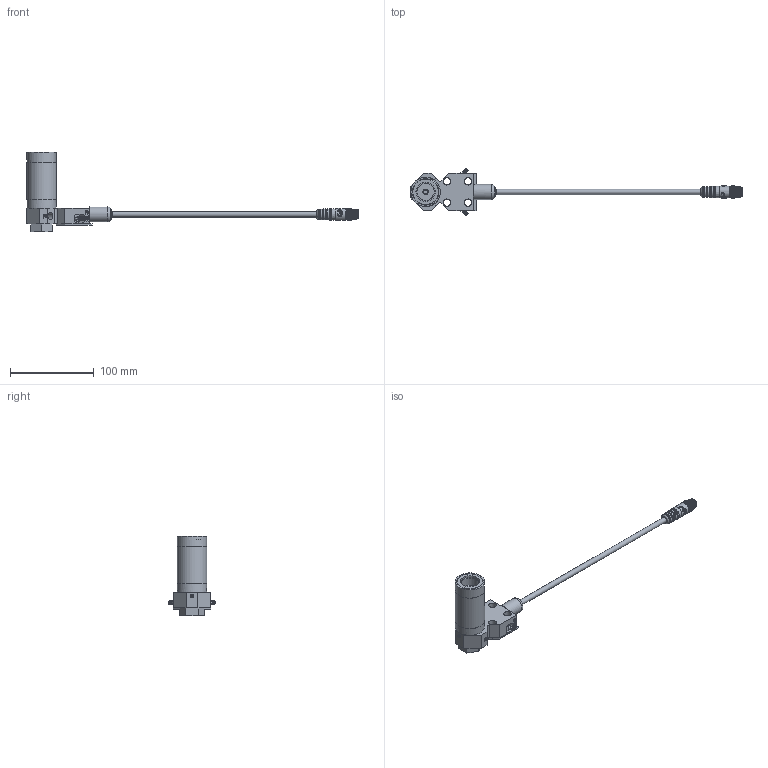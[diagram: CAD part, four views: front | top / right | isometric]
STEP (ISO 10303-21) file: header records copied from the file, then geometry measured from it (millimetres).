
FILE_DESCRIPTION(/* description */ ('ASSY,BODY,VF,IA,SXQR3,NHP_0002708776'),/* implementation_level */ '2;1');
FILE_NAME(/* name */ 'X:\ASSY,BODY,VF,IA,SXQR3,NHP_0002708776.stp',/* time_stamp */ '2021-07-07T14:00:34-04:00',/* author */ ('Simon.Britton'),/* organization */ (''),/* preprocessor_version */ 'ST-DEVELOPER v17',/* originating_system */ 'Autodesk Inventor 2019',/* authorisation */ '');
FILE_SCHEMA (('AUTOMOTIVE_DESIGN { 1 0 10303 214 3 1 1 }'));
Length unit declared in the file: millimetre
Products named in the file (1): ASSY,BODY,VF,IA,SXQR3,NHP_0002708776
Bounding box: 396.49 x 56.29 x 95.12 mm (x, y, z)
Volume: 112792.1 mm3; surface area: 62549.9 mm2
Topology: 1 solids, 14 shells, 3795 faces, 9052 edges, 5388 vertices
Faces by surface type: bspline 2428, plane 645, cylinder 635, cone 59, torus 23, sphere 5
Full cylindrical faces by diameter (mm): 1 x5, 1.05 x5, 1.25 x10, 1.35 x5, 1.6 x10, 1.8 x5, 1.85 x5, 2 x1, 2.381 x2, 2.388 x3, 2.7 x1, 3.175 x2, 3.734 x2, 3.81 x2, 3.962 x1, 4.064 x4, 4.216 x4, 4.366 x1, 4.496 x2, 4.763 x2, 4.8 x3, 5.556 x1, 6.35 x3, 7.95 x1, 8.731 x10, 9.4 x1, 9.7 x2, 10.6 x2, 10.9 x1, 12 x4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
Entity records: 250973 total; most frequent: CARTESIAN_POINT 169366, ORIENTED_EDGE 18076, DIRECTION 13129, EDGE_CURVE 9038, AXIS2_PLACEMENT_3D 5659, VERTEX_POINT 5386, CIRCLE 4228, EDGE_LOOP 3968
